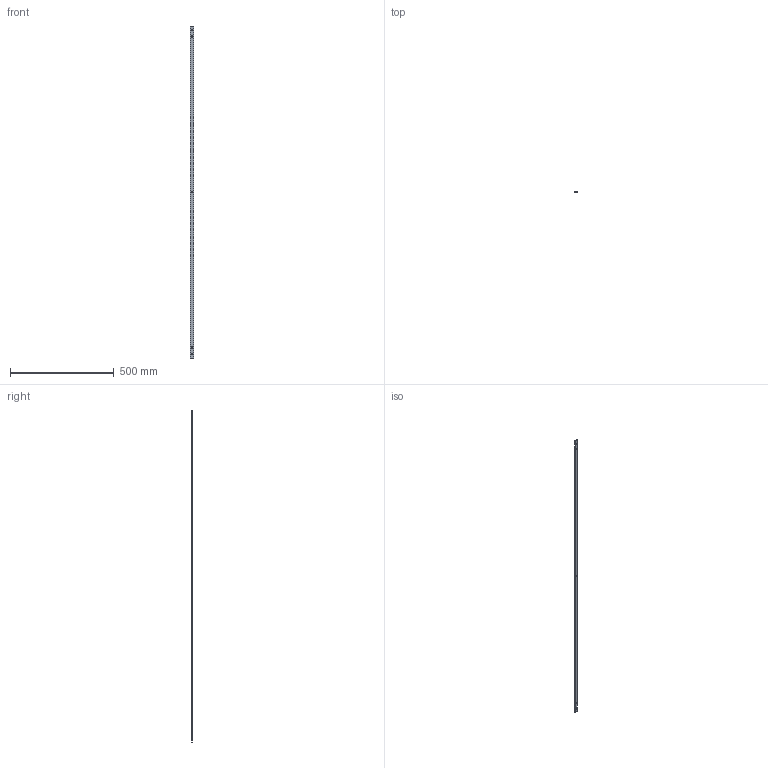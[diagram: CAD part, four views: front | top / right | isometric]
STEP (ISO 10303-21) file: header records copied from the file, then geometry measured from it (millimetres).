
FILE_DESCRIPTION( ( 'Unknown' ), '1' );
FILE_NAME( 'Q:/ACCESSORIES/WEB DRAWINGS/STEP/CBB63.stp', 'Unknown', ( 'Unknown' ), ( 'Unknown' ), 'XStep 1.0', 'Unknown', ' ' );
FILE_SCHEMA( ( 'CONFIG_CONTROL_DESIGN' ) );
Length unit declared in the file: millimetre
Products named in the file (1): 1
Bounding box: 15.88 x 3.17 x 1600.2 mm (x, y, z)
Volume: 79872 mm3; surface area: 60970.4 mm2
Topology: 1 solids, 1 shells, 11 faces, 32 edges, 23 vertices
Faces by surface type: plane 6, cylinder 5
Full cylindrical faces by diameter (mm): 7.925 x5
Entity records: 370 total; most frequent: DIRECTION 56, CARTESIAN_POINT 52, ORIENTED_EDGE 44, EDGE_LOOP 26, AXIS2_PLACEMENT_3D 22, EDGE_CURVE 22, VERTEX_POINT 18, FACE_OUTER_BOUND 16
